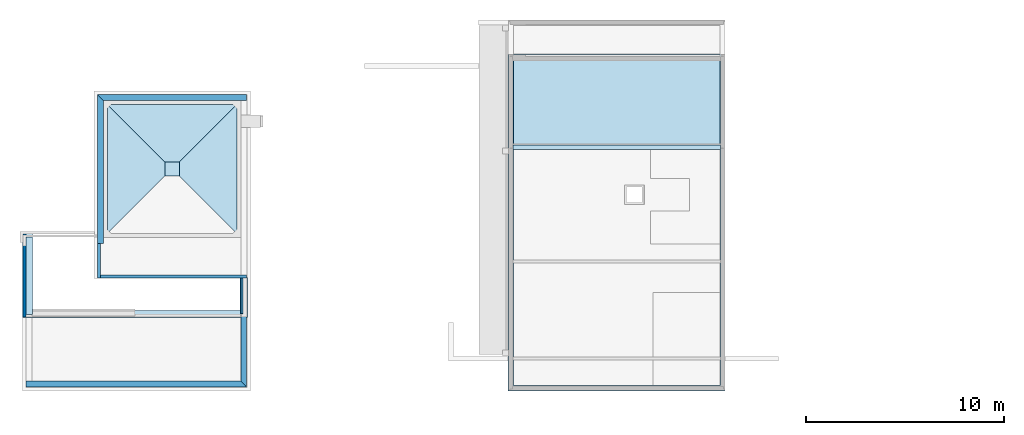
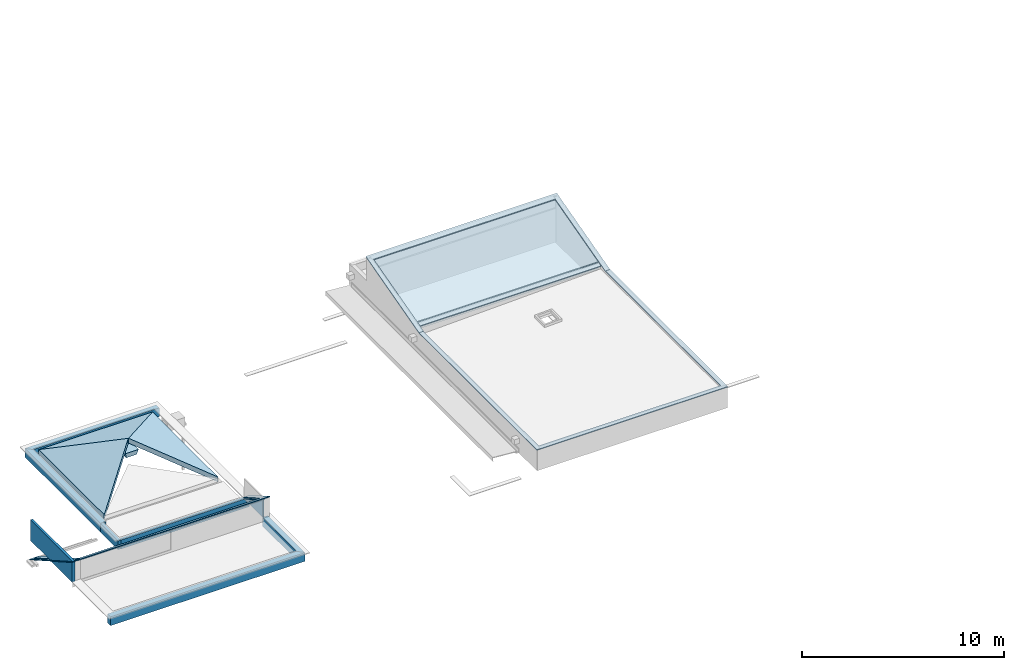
# One storey, part 3 of 8: 12 slabs, 8 walls.
"""IFC2X3 building model written with IfcOpenShell, lengths in metres."""

from ifc_helpers import new_model, entity, si_unit, converted_unit, derived_unit, direction, frame, frame_2d, origin, place, context, subcontext, project, spatial, polyline, rectangle, outline, extrude, faceted_brep, material, layer, layer_set, layer_usage, type_object, element, save


model = new_model("IFC2X3")

# Units and contexts
model_context = context("Model", 3, precision=1e-05, world=origin(), true_north=direction((6.123031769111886e-17, 1.0)))
body_context = subcontext(model_context, "Body", "Model", "MODEL_VIEW")
ifc_project = project(units=[si_unit("LENGTHUNIT", "METRE"), si_unit("AREAUNIT", "SQUARE_METRE"), si_unit("VOLUMEUNIT", "CUBIC_METRE"), converted_unit("PLANEANGLEUNIT", "DEGREE", entity("IfcRatioMeasure", 0.017453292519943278), si_unit("PLANEANGLEUNIT", "RADIAN"), dimensions=[0, 0, 0, 0, 0, 0, 0]), si_unit("MASSUNIT", "GRAM", prefix="KILO"), derived_unit("MASSDENSITYUNIT", [(si_unit("MASSUNIT", "GRAM", prefix="KILO"), 1), (si_unit("LENGTHUNIT", "METRE"), -3)]), derived_unit("MOMENTOFINERTIAUNIT", [(si_unit("LENGTHUNIT", "METRE"), 4)]), si_unit("TIMEUNIT", "SECOND"), si_unit("FREQUENCYUNIT", "HERTZ"), si_unit("THERMODYNAMICTEMPERATUREUNIT", "DEGREE_CELSIUS"), derived_unit("THERMALTRANSMITTANCEUNIT", [(si_unit("MASSUNIT", "GRAM", prefix="KILO"), 1), (si_unit("THERMODYNAMICTEMPERATUREUNIT", "KELVIN"), -1), (si_unit("TIMEUNIT", "SECOND"), -3)]), derived_unit("THERMALCONDUCTANCEUNIT", [(si_unit("MASSUNIT", "GRAM", prefix="KILO"), 1), (si_unit("LENGTHUNIT", "METRE"), 1), (si_unit("THERMODYNAMICTEMPERATUREUNIT", "KELVIN"), -1), (si_unit("TIMEUNIT", "SECOND"), -3)]), derived_unit("VOLUMETRICFLOWRATEUNIT", [(si_unit("LENGTHUNIT", "METRE"), 3), (si_unit("TIMEUNIT", "SECOND"), -1)]), derived_unit("MASSFLOWRATEUNIT", [(si_unit("MASSUNIT", "GRAM", prefix="KILO"), 1), (si_unit("TIMEUNIT", "SECOND"), -1)]), derived_unit("ROTATIONALFREQUENCYUNIT", [(si_unit("TIMEUNIT", "SECOND"), -1)]), si_unit("ELECTRICCURRENTUNIT", "AMPERE"), si_unit("ELECTRICVOLTAGEUNIT", "VOLT"), si_unit("POWERUNIT", "WATT"), si_unit("FORCEUNIT", "NEWTON", prefix="KILO"), si_unit("ILLUMINANCEUNIT", "LUX"), si_unit("LUMINOUSFLUXUNIT", "LUMEN"), si_unit("LUMINOUSINTENSITYUNIT", "CANDELA"), derived_unit("USERDEFINED", [(si_unit("MASSUNIT", "GRAM", prefix="KILO"), -1), (si_unit("LENGTHUNIT", "METRE"), -2), (si_unit("TIMEUNIT", "SECOND"), 3), (si_unit("LUMINOUSFLUXUNIT", "LUMEN"), 1)]), derived_unit("USERDEFINED", [(si_unit("MASSUNIT", "GRAM", prefix="KILO"), 1), (si_unit("LENGTHUNIT", "METRE"), 3), (si_unit("TIMEUNIT", "SECOND"), -3), (si_unit("ELECTRICCURRENTUNIT", "AMPERE"), -2)]), derived_unit("USERDEFINED", [(si_unit("LENGTHUNIT", "METRE"), 2), (si_unit("TIMEUNIT", "SECOND"), -2)]), derived_unit("SOUNDPOWERUNIT", [(si_unit("MASSUNIT", "GRAM", prefix="KILO"), 1), (si_unit("LENGTHUNIT", "METRE"), 2), (si_unit("TIMEUNIT", "SECOND"), -3)]), derived_unit("SOUNDPRESSUREUNIT", [(si_unit("MASSUNIT", "GRAM", prefix="KILO"), 1), (si_unit("LENGTHUNIT", "METRE"), -1), (si_unit("TIMEUNIT", "SECOND"), -2)]), derived_unit("LINEARVELOCITYUNIT", [(si_unit("LENGTHUNIT", "METRE"), 1), (si_unit("TIMEUNIT", "SECOND"), -1)]), si_unit("PRESSUREUNIT", "PASCAL"), derived_unit("USERDEFINED", [(si_unit("LENGTHUNIT", "METRE"), -2), (si_unit("MASSUNIT", "GRAM", prefix="KILO"), 1), (si_unit("TIMEUNIT", "SECOND"), -2)]), derived_unit("LINEARFORCEUNIT", [(si_unit("MASSUNIT", "GRAM", prefix="KILO"), 1), (si_unit("LENGTHUNIT", "METRE"), 1), (si_unit("TIMEUNIT", "SECOND"), -2), (si_unit("LENGTHUNIT", "METRE"), -1)]), derived_unit("PLANARFORCEUNIT", [(si_unit("MASSUNIT", "GRAM", prefix="KILO"), 1), (si_unit("LENGTHUNIT", "METRE"), 1), (si_unit("TIMEUNIT", "SECOND"), -2), (si_unit("LENGTHUNIT", "METRE"), -2)]), derived_unit("SPECIFICHEATCAPACITYUNIT", [(si_unit("LENGTHUNIT", "METRE"), 2), (si_unit("TIMEUNIT", "SECOND"), -2), (si_unit("THERMODYNAMICTEMPERATUREUNIT", "KELVIN"), -1)]), derived_unit("VAPORPERMEABILITYUNIT", [(si_unit("TIMEUNIT", "SECOND"), 1), (si_unit("LENGTHUNIT", "METRE"), -1)]), derived_unit("DYNAMICVISCOSITYUNIT", [(si_unit("MASSUNIT", "GRAM", prefix="KILO"), 1), (si_unit("LENGTHUNIT", "METRE"), -1), (si_unit("TIMEUNIT", "SECOND"), -1)]), derived_unit("THERMALEXPANSIONCOEFFICIENTUNIT", [(si_unit("THERMODYNAMICTEMPERATUREUNIT", "KELVIN"), -1)])], contexts=[model_context])

# Site, building, storey
site_placement = place(None, origin())
site = spatial("IfcSite", under=ifc_project, at=site_placement, Name="Default", CompositionType="ELEMENT")
building_placement = place(site_placement, origin())
building = spatial("IfcBuilding", under=site, at=building_placement, CompositionType="ELEMENT")
storey_placement = place(building_placement, frame((0.0, 0.0, 6.059999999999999)))
storey = spatial("IfcBuildingStorey", under=building, at=storey_placement, Name="TOITURE", CompositionType="ELEMENT", Elevation=6.059999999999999)

# Slabs
ifc_material_1 = material(Name="Peinture - Gris foncé")
slab_type_1 = type_object("IfcSlabType", Name="Toit-01", PredefinedType="ROOF", material=ifc_material_1)
slab_1_placement = place(storey_placement, frame((141.3807522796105, 7.5672094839, 1.960000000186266)))
element("IfcSlab", 1, at=slab_1_placement, inside=storey, type_object=slab_type_1, Name="Toit-01 824923:Toit-01 824923", ObjectType="Toit-01 824923:Toit-01 824923", PredefinedType="ROOF", context=body_context, shape_type="Brep", body=[
    faceted_brep([(0.26000000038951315, 11.691887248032, 0.04999999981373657), (0.0, 11.691887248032, 0.04999999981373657), (0.0, 0.0, 0.04999999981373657), (10.940000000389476, 0.0, 0.04999999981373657), (10.940000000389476, 11.691887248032, 0.04999999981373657), (10.67999987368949, 11.691887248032, 0.04999999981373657), (10.67999987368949, 0.26000000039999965, 0.04999999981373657), (0.26000000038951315, 0.26000000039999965, 0.04999999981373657), (0.26000000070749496, 11.698518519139, 0.0), (0.0, 11.698518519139, 0.0), (0.0, 0.0, 0.0), (10.940000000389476, 0.0, 0.0), (10.940000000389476, 11.698518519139, 0.0), (10.679999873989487, 11.698518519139, 0.0), (10.67999987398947, 0.2600000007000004, 0.0), (0.26000000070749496, 0.2600000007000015, 0.0)], [[[0, 1, 2, 3, 4, 5, 6, 7]], [[1, 0, 8, 9]], [[2, 1, 9, 10]], [[3, 2, 10, 11]], [[4, 3, 11, 12]], [[5, 4, 12, 13]], [[6, 5, 13, 14]], [[7, 6, 14, 15]], [[0, 7, 15, 8]], [[9, 8, 15, 14, 13, 12, 11, 10]]]),
])
slab_type_2 = type_object("IfcSlabType", Name="Toit-01", PredefinedType="ROOF", material=ifc_material_1)
slab_2_placement = place(storey_placement, frame((141.38075235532, 19.259096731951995, 1.96000000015)))
element("IfcSlab", 2, at=slab_2_placement, inside=storey, type_object=slab_type_2, Name="Toit-01 825379:Toit-01 825379", ObjectType="Toit-01 825379:Toit-01 825379", PredefinedType="ROOF", context=body_context, shape_type="Brep", body=[
    faceted_brep([(10.939999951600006, 5.278112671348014, 1.4750904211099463), (0.0, 5.278112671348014, 1.4750904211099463), (0.0, 0.0, 0.04999999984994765), (0.2699999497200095, 0.0, 0.04999999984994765), (0.2699999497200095, 4.968112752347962, 1.3913904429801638), (10.669999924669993, 4.968112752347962, 1.3913904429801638), (10.669999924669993, 0.0, 0.04999999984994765), (10.939999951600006, 0.0, 0.04999999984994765), (10.939999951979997, 5.278112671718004, 1.4232999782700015), (0.0, 5.278112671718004, 1.4232999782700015), (0.0, 0.006631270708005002, 0.0), (0.2699999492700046, 0.0066312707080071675, 0.0), (0.2699999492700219, 4.968112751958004, 1.3395999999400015), (10.669999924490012, 4.968112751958, 1.3395999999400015), (10.669999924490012, 0.006631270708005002, 0.0), (10.939999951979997, 0.0066312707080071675, 0.0)], [[[0, 1, 2, 3, 4, 5, 6, 7]], [[1, 0, 8, 9]], [[2, 1, 9, 10]], [[3, 2, 10, 11]], [[4, 3, 11, 12]], [[5, 4, 12, 13]], [[6, 5, 13, 14]], [[7, 6, 14, 15]], [[0, 7, 15, 8]], [[9, 8, 15, 14, 13, 12, 11, 10]]]),
])
ifc_material_2 = material(Name="Isolation - Fibre de verre")
slab_type_3 = type_object("IfcSlabType", Name="Toit-01", PredefinedType="ROOF", material=ifc_material_2)
slab_3_placement = place(storey_placement, frame((124.071225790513, 18.38768300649, 0.9499999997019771)))
element("IfcSlab", 3, at=slab_3_placement, inside=storey, type_object=slab_type_3, Name="Toit-01 843311:Toit-01 843311", ObjectType="Toit-01 843311:Toit-01 843311", PredefinedType="ROOF", context=body_context, shape_type="Brep", body=[
    faceted_brep([(0.7390529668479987, 0.0, 0.3200000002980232), (0.7390529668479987, 0.7190529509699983, 0.3200000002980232), (0.0, 0.7190529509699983, 0.3200000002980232), (0.0, 0.0, 0.3200000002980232), (0.6725843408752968, 0.06646862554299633, 0.020000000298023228), (0.6725843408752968, 0.6525843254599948, 0.020000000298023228), (0.06646862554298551, 0.652584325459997, 0.020000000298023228), (0.06646862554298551, 0.06646862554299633, 0.020000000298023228), (0.0708998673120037, 0.07089986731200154, 0.0), (0.668153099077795, 0.07089986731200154, 0.0), (0.0708998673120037, 0.6481530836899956, 0.0), (0.668153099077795, 0.6481530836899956, 0.0)], [[[0, 1, 2, 3]], [[0, 4, 5, 1]], [[1, 5, 6, 2]], [[2, 6, 7, 3]], [[3, 7, 4, 0]], [[4, 7, 6, 5]], [[7, 8, 9, 4]], [[6, 10, 8, 7]], [[8, 10, 11, 9]], [[4, 9, 11, 5]], [[4, 5, 6, 7]], [[5, 11, 10, 6]]]),
])
ifc_material_3 = material(Name="Toit - Tuiles françaises rouges")
ifc_layer_1 = layer(ifc_material_3, 0.271924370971)
ifc_layer_set_1 = layer_set([ifc_layer_1], Name="Toit de base:Toit-01:1534")
ifc_layer_usage_1 = layer_usage(ifc_layer_set_1, "AXIS3", "NEGATIVE", 0.0)
slab_type_4 = type_object("IfcSlabType", Name="Toit-01", PredefinedType="ROOF")
slab_4_placement = place(storey_placement, frame((121.18075226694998, 18.74720948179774, 0.040000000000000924)))
element("IfcSlab", 4, at=slab_4_placement, inside=storey, type_object=slab_type_4, material=ifc_layer_usage_1, Name="Toit de base:Toit-01:1534", ObjectType="Toit de base:Toit-01:1534", PredefinedType="ROOF", context=body_context, shape_type="Brep", body=[
    faceted_brep([(0.0, 3.2499999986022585, 0.0), (6.5200000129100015, 3.2499999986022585, 0.0), (3.270000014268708, 0.0, 1.5144999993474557), (3.2499999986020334, 0.0, 1.5144999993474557), (6.5200000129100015, 3.2499999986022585, 0.3000000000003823), (0.0, 3.2499999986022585, 0.3000000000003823), (3.2499999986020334, 0.0, 1.814499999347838), (3.270000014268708, 0.0, 1.814499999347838)], [[[0, 1, 2, 3]], [[4, 5, 6, 7]], [[5, 4, 1, 0]], [[6, 5, 0, 3]], [[7, 6, 3, 2]], [[4, 7, 2, 1]]]),
])
slab_5_placement = place(storey_placement, frame((124.45075228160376, 15.497209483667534, 0.040000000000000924)))
element("IfcSlab", 5, at=slab_5_placement, inside=storey, type_object=slab_type_4, material=ifc_layer_usage_1, Name="Toit de base:Toit-01:1534", ObjectType="Toit de base:Toit-01:1534", PredefinedType="ROOF", context=body_context, shape_type="Brep", body=[
    faceted_brep([(0.0, 3.249999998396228, 1.5144999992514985), (3.2499999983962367, 6.499999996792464, 0.0), (3.2499999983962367, 0.0, 0.0), (3.2499999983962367, 6.499999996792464, 0.3000000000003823), (0.0, 3.249999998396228, 1.8144999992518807), (3.2499999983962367, 0.0, 0.3000000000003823)], [[[0, 1, 2]], [[3, 4, 5]], [[4, 3, 1, 0]], [[5, 4, 0, 2]], [[3, 5, 2, 1]]]),
])
slab_6_placement = place(storey_placement, frame((121.18075226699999, 15.497209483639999, 0.040000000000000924)))
element("IfcSlab", 6, at=slab_6_placement, inside=storey, type_object=slab_type_4, material=ifc_layer_usage_1, Name="Toit de base:Toit-01:1534", ObjectType="Toit de base:Toit-01:1534", PredefinedType="ROOF", context=body_context, shape_type="Brep", body=[
    faceted_brep([(0.0, 0.0, 0.0), (0.0, 6.49999999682, 0.0), (3.2499999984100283, 3.24999999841, 1.5144999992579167), (0.0, 6.49999999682, 0.3000000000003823), (0.0, 0.0, 0.3000000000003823), (3.2499999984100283, 3.24999999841, 1.8144999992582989)], [[[0, 1, 2]], [[3, 4, 5]], [[4, 3, 1, 0]], [[5, 4, 0, 2]], [[3, 5, 2, 1]]]),
])
ifc_material_4 = material(Name="Métal - Zinc")
ifc_layer_2 = layer(ifc_material_4, 0.0347764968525)
ifc_layer_set_2 = layer_set([ifc_layer_2], Name="Toit de base:Toit-01:1589")
ifc_layer_usage_2 = layer_usage(ifc_layer_set_2, "AXIS3", "NEGATIVE", 0.0)
slab_type_5 = type_object("IfcSlabType", Name="Toit-01", PredefinedType="ROOF")
slab_7_placement = place(storey_placement, frame((117.380752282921, 11.417209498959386, 0.2820340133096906)))
element("IfcSlab", 7, at=slab_7_placement, inside=storey, type_object=slab_type_5, material=ifc_layer_usage_2, Name="Toit de base:Toit-01:1589", ObjectType="Toit de base:Toit-01:1589", PredefinedType="ROOF", context=body_context, shape_type="Brep", body=[
    faceted_brep([(5.159999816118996, 0.07999992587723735, 1.013188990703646), (0.0, 0.07999992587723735, 1.013188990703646), (0.0, 0.20000005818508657, 0.9449929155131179), (10.499999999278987, 0.20000005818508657, 0.9449929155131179), (10.499999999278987, 1.8628417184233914, 0.0), (10.639999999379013, 1.8628417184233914, 0.0), (10.639999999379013, 0.0, 1.0586529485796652), (5.159999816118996, 0.0, 1.0586529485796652), (0.0, 0.07999992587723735, 1.0531889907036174), (5.159999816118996, 0.07999992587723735, 1.0531889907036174), (5.159999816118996, 0.0, 1.0986529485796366), (10.639999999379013, 0.0, 1.0986529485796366), (10.639999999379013, 1.8628417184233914, 0.03999999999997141), (10.499999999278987, 1.8628417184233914, 0.03999999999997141), (10.499999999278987, 0.20000005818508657, 0.9849929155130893), (0.0, 0.20000005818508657, 0.9849929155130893)], [[[0, 1, 2, 3, 4, 5, 6, 7]], [[8, 9, 10, 11, 12, 13, 14, 15]], [[9, 8, 1, 0]], [[10, 9, 0, 7]], [[11, 10, 7, 6]], [[12, 11, 6, 5]], [[13, 12, 5, 4]], [[14, 13, 4, 3]], [[15, 14, 3, 2]], [[8, 15, 2, 1]]]),
])
slab_8_placement = place(storey_placement, frame((117.05075228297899, 11.417209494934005, -0.7613659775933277)))
element("IfcSlab", 8, at=slab_8_placement, inside=storey, type_object=slab_type_5, material=ifc_layer_usage_2, Name="Toit de base:Toit-01:1589", ObjectType="Toit de base:Toit-01:1589", PredefinedType="ROOF", context=body_context, shape_type="Brep", body=[
    faceted_brep([(0.34999993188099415, 0.0, 2.2220529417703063), (0.0, 0.0, 2.2220529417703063), (0.0, 3.909999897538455, 0.0), (0.34999993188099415, 3.909999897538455, 0.0), (0.0, 0.0, 2.2620529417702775), (0.34999993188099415, 0.0, 2.2620529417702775), (0.34999993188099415, 3.909999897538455, 0.03999999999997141), (0.0, 3.909999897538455, 0.03999999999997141)], [[[0, 1, 2, 3]], [[4, 5, 6, 7]], [[5, 4, 1, 0]], [[6, 5, 0, 3]], [[7, 6, 3, 2]], [[4, 7, 2, 1]]]),
])
ifc_layer_3 = layer(ifc_material_4, 0.0434706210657)
ifc_layer_set_3 = layer_set([ifc_layer_3], Name="Toit de base:Toit-01:1729")
ifc_layer_usage_3 = layer_usage(ifc_layer_set_3, "AXIS3", "NEGATIVE", 0.0)
slab_type_6 = type_object("IfcSlabType", Name="Toit-01", PredefinedType="ROOF")
slab_9_placement = place(storey_placement, frame((116.89075228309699, 11.257209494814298, -0.8922940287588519)))
element("IfcSlab", 9, at=slab_9_placement, inside=storey, type_object=slab_type_6, material=ifc_layer_usage_3, Name="Toit de base:Toit-01:1729", ObjectType="Toit de base:Toit-01:1729", PredefinedType="ROOF", context=body_context, shape_type="Brep", body=[
    faceted_brep([(0.5099999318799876, 0.0, 2.4039089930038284), (0.0, 0.0, 2.4039089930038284), (0.0, 4.22999998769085, 0.0), (0.5099999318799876, 4.22999998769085, 0.0), (0.0, 0.0, 2.4539089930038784), (0.5099999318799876, 0.0, 2.4539089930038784), (0.5099999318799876, 4.22999998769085, 0.050000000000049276), (0.0, 4.22999998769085, 0.050000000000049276)], [[[0, 1, 2, 3]], [[4, 5, 6, 7]], [[5, 4, 1, 0]], [[6, 5, 0, 3]], [[7, 6, 3, 2]], [[4, 7, 2, 1]]]),
])
slab_10_placement = place(storey_placement, frame((117.40075221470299, 11.257209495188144, 0.3693319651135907)))
element("IfcSlab", 10, at=slab_10_placement, inside=storey, type_object=slab_type_6, material=ifc_layer_usage_3, Name="Toit de base:Toit-01:1729", ObjectType="Toit de base:Toit-01:1729", PredefinedType="ROOF", context=body_context, shape_type="Brep", body=[
    faceted_brep([(0.0, 0.0, 1.142282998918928), (0.0, 0.3600000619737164, 0.9376949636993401), (10.470000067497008, 0.3600000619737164, 0.9376949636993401), (10.470000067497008, 2.0099999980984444, 0.0), (10.830000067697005, 2.0099999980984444, 0.0), (10.830000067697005, 0.0, 1.142282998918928), (0.0, 0.3600000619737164, 0.9876949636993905), (0.0, 0.0, 1.1922829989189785), (10.830000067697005, 0.0, 1.1922829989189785), (10.830000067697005, 2.0099999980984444, 0.05000000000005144), (10.470000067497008, 2.0099999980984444, 0.05000000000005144), (10.470000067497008, 0.3600000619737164, 0.9876949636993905)], [[[0, 1, 2, 3, 4, 5]], [[6, 7, 8, 9, 10, 11]], [[7, 6, 1, 0]], [[8, 7, 0, 5]], [[9, 8, 5, 4]], [[10, 9, 4, 3]], [[11, 10, 3, 2]], [[6, 11, 2, 1]]]),
])
ifc_material_5 = material(Name="Transp. - Verre clair (rapide)")
ifc_layer_4 = layer(ifc_material_5, 0.05)
ifc_material_6 = material(Name="Métal - Fer")
ifc_layer_5 = layer(ifc_material_6, 0.05)
ifc_layer_6 = layer(ifc_material_2, 0.2)
ifc_layer_7 = layer(ifc_material_2, 0.1)
ifc_material_7 = material(Name="Etanchéité - Membrane souple")
ifc_layer_8 = layer(ifc_material_7, 0.005)
ifc_material_8 = material(Name="Plâtre - Plaques de plâtre")
ifc_layer_9 = layer(ifc_material_8, 0.055)
ifc_layer_set_4 = layer_set([ifc_layer_4, ifc_layer_5, ifc_layer_6, ifc_layer_7, ifc_layer_8, ifc_layer_9], Name="Toit de base:Toit-01:1733")
ifc_layer_usage_4 = layer_usage(ifc_layer_set_4, "AXIS3", "NEGATIVE", 0.0)
slab_type_7 = type_object("IfcSlabType", Name="Toit-01", PredefinedType="ROOF")
slab_11_placement = place(storey_placement, frame((141.62075228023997, 19.96620948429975, 1.6691300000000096)))
element("IfcSlab", 11, at=slab_11_placement, inside=storey, type_object=slab_type_7, material=ifc_layer_usage_4, Name="Toit de base:Toit-01:1733", ObjectType="Toit de base:Toit-01:1733", PredefinedType="ROOF", context=body_context, shape_type="Brep", body=[
    faceted_brep([(0.0, 0.0, 0.0), (0.0, 4.28200000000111, 1.1561400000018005), (10.460000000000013, 4.28200000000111, 1.1561400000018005), (10.460000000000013, 0.0, 0.0), (0.0, 4.28200000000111, 1.6326120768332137), (0.0, 0.0, 0.47647207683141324), (10.460000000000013, 0.0, 0.47647207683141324), (10.460000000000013, 4.28200000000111, 1.6326120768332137)], [[[0, 1, 2, 3]], [[4, 5, 6, 7]], [[5, 4, 1, 0]], [[6, 5, 0, 3]], [[7, 6, 3, 2]], [[4, 7, 2, 1]]]),
])
ifc_layer_10 = layer(ifc_material_6, 0.05)
ifc_layer_set_5 = layer_set([ifc_layer_10], Name="Toit de base:Toit-01:1735")
ifc_layer_usage_5 = layer_usage(ifc_layer_set_5, "AXIS3", "NEGATIVE", 0.0)
slab_type_8 = type_object("IfcSlabType", Name="Toit-01", PredefinedType="ROOF")
slab_12_placement = place(storey_placement, frame((141.61975227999, 19.71920948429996, 1.9753311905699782)))
element("IfcSlab", 12, at=slab_12_placement, inside=storey, type_object=slab_type_8, material=ifc_layer_usage_5, Name="Toit de base:Toit-01:1735", ObjectType="Toit de base:Toit-01:1735", PredefinedType="ROOF", context=body_context, shape_type="Brep", body=[
    faceted_brep([(10.462000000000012, 0.0, 0.0), (0.0, 0.0, 0.0), (0.0, 0.24699999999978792, 0.06669000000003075), (10.462000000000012, 0.24699999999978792, 0.06669000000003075), (0.0, 0.0, 0.05179044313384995), (10.462000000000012, 0.0, 0.05179044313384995), (10.462000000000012, 0.24699999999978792, 0.11848044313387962), (0.0, 0.24699999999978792, 0.11848044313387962)], [[[0, 1, 2, 3]], [[4, 5, 6, 7]], [[5, 4, 1, 0]], [[6, 5, 0, 3]], [[7, 6, 3, 2]], [[4, 7, 2, 1]]]),
])

# Walls
wall_type_1 = type_object("IfcWallType", Name="MurExt-020", PredefinedType="NOTDEFINED")
wall_1_placement = place(storey_placement, frame((127.90075228, 11.4372094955, 0.29000000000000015), z_axis=(0.0, 0.0, 1.0), x_axis=(0.0, 1.0, 0.0)))
element("IfcWall", 13, at=wall_1_placement, inside=storey, type_object=wall_type_1, Name="MurExt-020 805497:MurExt-020 805497", ObjectType="MurExt-020 805497:MurExt-020 805497", context=body_context, shape_type="Brep", body=[
    faceted_brep([(1.809999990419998, -0.0999999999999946, 0.0), (0.0, -0.0999999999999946, 0.0), (0.0, 0.0, 0.0), (1.809999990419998, 0.0, 0.0), (1.809999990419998, -0.0999999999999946, 0.010697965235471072), (0.0, -0.0999999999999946, 1.0393209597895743), (1.809999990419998, 0.0, 0.010697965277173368), (0.0, 0.0, 1.0393209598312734)], [[[0, 1, 2, 3]], [[1, 0, 4, 5]], [[0, 3, 6, 4]], [[3, 2, 7, 6]], [[2, 1, 5, 7]], [[5, 4, 6, 7]]]),
])
wall_type_2 = type_object("IfcWallType", Name="zz", PredefinedType="NOTDEFINED")
wall_2_placement = place(storey_placement, frame((116.91075228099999, 11.277209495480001, 0.28999999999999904), z_axis=(0.0, 0.0, 1.0), x_axis=(0.0, 1.0, 0.0)))
element("IfcWall", 14, at=wall_2_placement, inside=storey, type_object=wall_type_2, Name="zz:zz", ObjectType="zz:zz", context=body_context, shape_type="Brep", body=[
    faceted_brep([(0.0, -0.019999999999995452, 0.0), (0.0, 0.0, 0.0), (2.129595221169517, 0.0, 0.0), (2.129595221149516, -0.019999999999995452, 0.0), (0.0, 0.0, 1.210248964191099), (0.0, -0.019999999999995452, 1.210248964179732), (0.019999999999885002, -0.019999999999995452, 1.198882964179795)], [[[0, 1, 2, 3]], [[2, 1, 4]], [[1, 0, 5, 4]], [[0, 3, 6, 5]], [[3, 2, 4, 5, 6]]]),
    faceted_brep([(4.189999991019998, -0.019999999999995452, 1.2500000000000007), (0.0, -0.019999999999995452, 1.2500000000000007), (0.0, -0.15999999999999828, 1.2500000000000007), (4.189999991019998, -0.15999999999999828, 1.2500000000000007), (4.189999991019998, -0.019999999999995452, 0.0), (4.189999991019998, -0.15999999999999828, 0.0), (0.0, -0.15999999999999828, 0.0), (0.0, -0.019999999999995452, 0.0)], [[[0, 1, 2, 3]], [[4, 5, 6, 7]], [[1, 0, 4, 7]], [[2, 1, 7, 6]], [[3, 2, 6, 5]], [[0, 3, 5, 4]]]),
])
ifc_material_9 = material(Name="Appareillage - Pierre taillé")
ifc_layer_11 = layer(ifc_material_9, 0.29999999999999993)
ifc_layer_set_6 = layer_set([ifc_layer_11], Name="Mur de base:Struct. - Pierre 300")
ifc_layer_usage_6 = layer_usage(ifc_layer_set_6, "AXIS2", "NEGATIVE", 0.14999999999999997)
wall_type_3 = type_object("IfcWallType", Name="Mur de base:Struct. - Pierre 300", PredefinedType="STANDARD", material=ifc_layer_set_6)
wall_3_placement = place(storey_placement, frame((128.05075227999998, 11.437209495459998, -0.24000000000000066), z_axis=(0.0, 0.0, 1.0), x_axis=(0.0, -1.0, 0.0)))
element("IfcWallStandardCase", 15, at=wall_3_placement, inside=storey, type_object=wall_type_3, material=ifc_layer_usage_6, Name="MurExt-019", ObjectType="Mur de base:Struct. - Pierre 300", context=body_context, shape_type="SweptSolid", body=[
    extrude(outline(polyline([(3.390000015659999, -0.15000000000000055), (3.690000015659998, 0.15000000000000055), (0.0, 0.15000000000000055), (0.0, -0.15000000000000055), (3.390000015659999, -0.15000000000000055)])), origin(), (0.0, 0.0, 1.0), 0.5300000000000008),
])
wall_4_placement = place(storey_placement, frame((120.830752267, 14.997209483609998, -0.24000000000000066), z_axis=(0.0, 0.0, 1.0), x_axis=(0.0, 1.0, 0.0)))
element("IfcWallStandardCase", 16, at=wall_4_placement, inside=storey, type_object=wall_type_3, material=ifc_layer_usage_6, Name="MurExt-017", ObjectType="Mur de base:Struct. - Pierre 300", context=body_context, shape_type="SweptSolid", body=[
    extrude(outline(polyline([(7.199999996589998, -0.15000000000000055), (7.499999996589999, 0.15000000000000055), (0.0, 0.15000000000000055), (0.0, -0.009999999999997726), (0.0, -0.15000000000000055), (7.199999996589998, -0.15000000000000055)])), origin(), (0.0, 0.0, 1.0), 0.5300000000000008),
])
wall_5_placement = place(storey_placement, frame((128.20075228, 7.8972094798, -0.24000000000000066), z_axis=(0.0, 0.0, 1.0), x_axis=(-1.0, 0.0, 0.0)))
element("IfcWallStandardCase", 17, at=wall_5_placement, inside=storey, type_object=wall_type_3, material=ifc_layer_usage_6, Name="MurExt-021", ObjectType="Mur de base:Struct. - Pierre 300", context=body_context, shape_type="SweptSolid", body=[
    extrude(outline(polyline([(11.129999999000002, -0.15000000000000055), (11.129999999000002, 0.14999999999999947), (0.0, 0.14999999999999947), (0.3000000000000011, -0.15000000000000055), (11.129999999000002, -0.15000000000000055)])), origin(), (0.0, 0.0, 1.0), 0.5300000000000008),
])
wall_6_placement = place(storey_placement, frame((120.680752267, 22.347209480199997, -0.24000000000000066)))
element("IfcWallStandardCase", 18, at=wall_6_placement, inside=storey, type_object=wall_type_3, Name="MurExt-016", ObjectType="Mur de base:Struct. - Pierre 300", context=body_context, shape_type="Brep", body=[
    faceted_brep([(0.3000000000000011, -0.15000000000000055, 0.0), (7.52000001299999, -0.15000000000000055, 0.0), (7.52000001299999, -0.15000000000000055, 0.5300000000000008), (0.3000000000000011, -0.15000000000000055, 0.5300000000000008), (0.3000000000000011, -0.15000000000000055, 0.24000000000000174), (0.3000000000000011, 0.15000000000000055, 0.0), (0.3000000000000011, 0.15000000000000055, 0.24000000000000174), (0.0, 0.15000000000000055, 0.24000000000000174), (0.0, 0.15000000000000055, 0.5300000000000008), (7.52000001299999, 0.15000000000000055, 0.5300000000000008), (7.52000001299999, 0.15000000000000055, 0.0)], [[[0, 1, 2, 3, 4]], [[5, 6, 7, 8, 9, 10]], [[1, 0, 5, 10]], [[2, 1, 10, 9]], [[3, 2, 9, 8]], [[4, 7, 6]], [[0, 4, 6, 5]], [[4, 3, 8, 7]]]),
])
ifc_layer_12 = layer(ifc_material_9, 0.16)
ifc_layer_set_7 = layer_set([ifc_layer_12], Name="Mur de base:Struct. - Pierre 160")
ifc_layer_usage_7 = layer_usage(ifc_layer_set_7, "AXIS2", "NEGATIVE", 0.08)
wall_type_4 = type_object("IfcWallType", Name="Mur de base:Struct. - Pierre 160", PredefinedType="STANDARD", material=ifc_layer_set_7)
wall_7_placement = place(storey_placement, frame((120.760752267, 13.2472094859, -0.24000000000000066), z_axis=(0.0, 0.0, 1.0), x_axis=(0.0, 1.0, 0.0)))
element("IfcWallStandardCase", 19, at=wall_7_placement, inside=storey, type_object=wall_type_4, material=ifc_layer_usage_7, Name="MurExt-018", ObjectType="Mur de base:Struct. - Pierre 160", context=body_context, shape_type="SweptSolid", body=[
    extrude(rectangle(XDim=1.7499999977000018, YDim=0.15999999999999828, at=frame_2d((0.8749999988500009, 0.0), x_axis=(-1.0, 0.0))), origin(), (0.0, 0.0, 1.0), 0.5300000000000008),
])
wall_8_placement = place(storey_placement, frame((128.20075227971, 13.3272094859, -0.26000000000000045), z_axis=(0.0, 0.0, 1.0), x_axis=(-1.0, 0.0, 0.0)))
element("IfcWallStandardCase", 20, at=wall_8_placement, inside=storey, type_object=wall_type_4, material=ifc_layer_usage_7, Name="MurExt-018", ObjectType="Mur de base:Struct. - Pierre 160", context=body_context, shape_type="SweptSolid", body=[
    extrude(rectangle(XDim=7.3600000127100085, YDim=0.15999999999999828, at=frame_2d((3.6800000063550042, 0.0), x_axis=(-1.0, 0.0))), origin(), (0.0, 0.0, 1.0), 0.5500000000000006),
])

save(model, "model.ifc")
